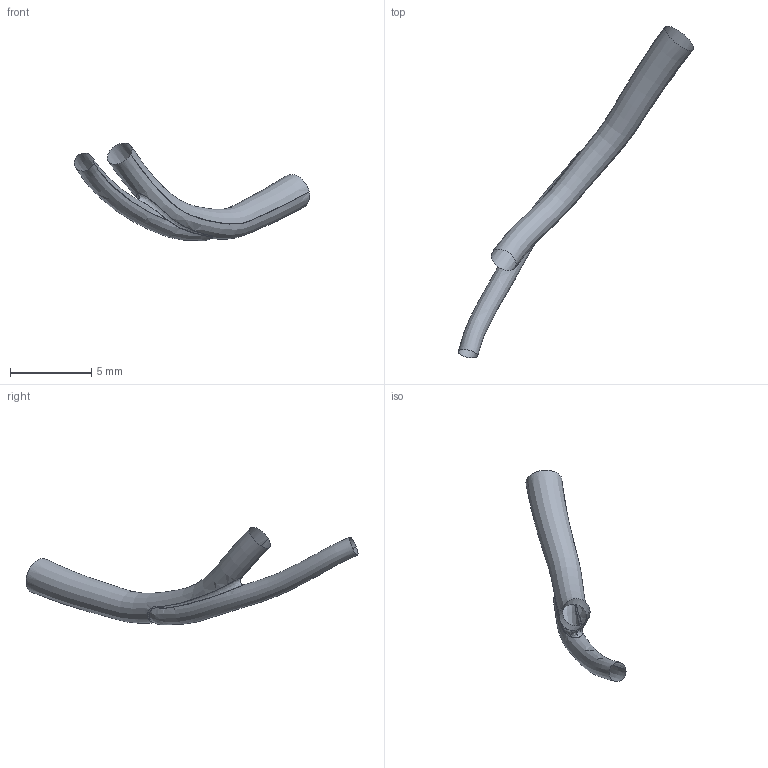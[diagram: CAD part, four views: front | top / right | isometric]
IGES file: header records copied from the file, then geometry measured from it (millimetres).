
Global section: file name: C:\Documents and Settings\Administrator\Desktop\FDA-Pig\Domestic LCA\Pig_000004\om.es.igs; native system: Rhinoceros ( May 19 2006 ); preprocessor: Trout Lake IGES 012 May 19 2006; date: 111205.183209; units: centimetre
Bounding box: 14.45 x 20.39 x 6.01 mm (x, y, z)
Surface area: 154.2 mm2 (no closed solid volume)
Topology: 0 solids, 0 shells, 3 faces, 68 edges, 65 vertices
Faces by surface type: bspline 3
